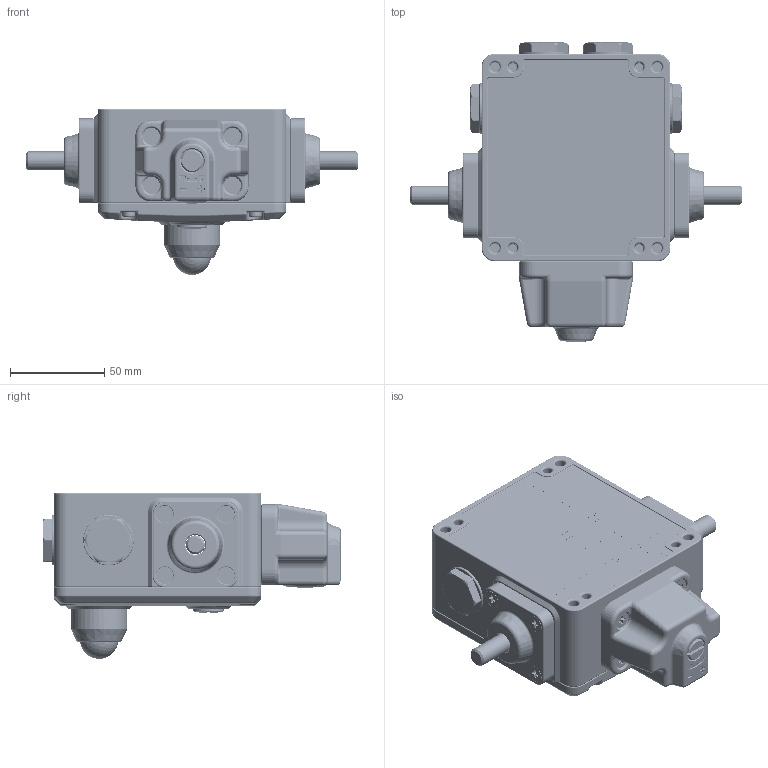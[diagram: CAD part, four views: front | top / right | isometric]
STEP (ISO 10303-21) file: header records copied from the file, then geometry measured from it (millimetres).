
FILE_DESCRIPTION (( 'STEP AP203' ), '1' );
FILE_NAME ('500-Belt Switch (No Roller) (STEP format).STEP', '2016-11-04T11:38:42', ( '' ), ( '' ), 'SwSTEP 2.0', 'SolidWorks 2015', '' );
FILE_SCHEMA (( 'CONFIG_CONTROL_DESIGN' ));
Products named in the file (1): 500-Belt Switch (No Roller) (STEP format)
Bounding box: 176 x 158.5 x 88 mm (x, y, z)
Volume: 300714.2 mm3; surface area: 174846.1 mm2
Topology: 48 solids, 48 shells, 4630 faces, 11304 edges, 6801 vertices
Faces by surface type: cylinder 1742, plane 1404, torus 666, cone 386, bspline 383, sphere 49
Entity records: 179771 total; most frequent: CARTESIAN_POINT 73737, ORIENTED_EDGE 22364, DIRECTION 22345, EDGE_CURVE 11182, AXIS2_PLACEMENT_3D 8533, VERTEX_POINT 6791, VECTOR 5279, LINE 5279
